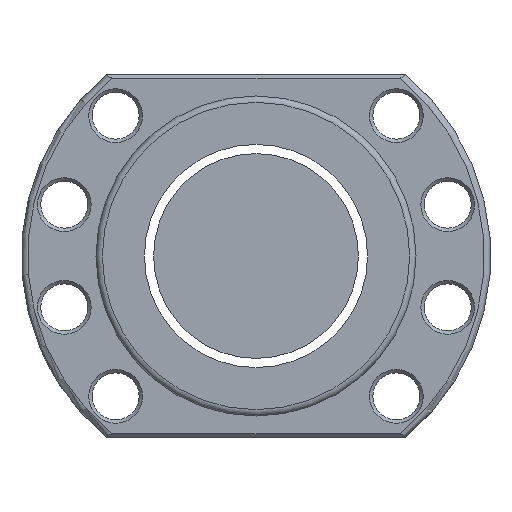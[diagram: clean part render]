
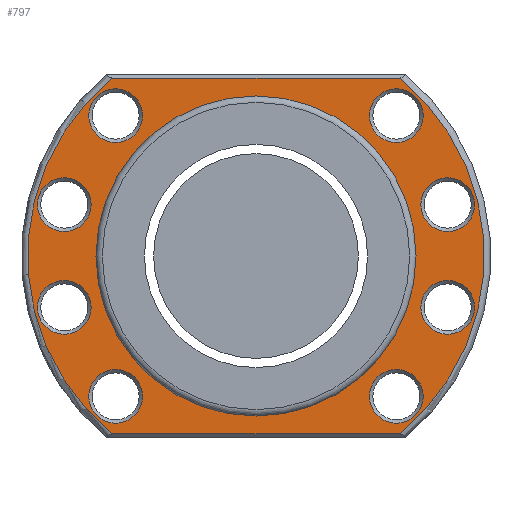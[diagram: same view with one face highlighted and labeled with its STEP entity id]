
A CAD part, left-side view. The second image highlights one B-rep face of the part: STEP entity #797.
In plain terms, the highlighted planar face has unit normal (-1, 0, 0).
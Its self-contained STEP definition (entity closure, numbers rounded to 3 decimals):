
#6 = CARTESIAN_POINT ( 'NONE',  ( -156.5, 33.517, -41.7 ) ) ;
#16 = EDGE_LOOP ( 'NONE', ( #2091 ) ) ;
#26 = EDGE_CURVE ( 'NONE', #3251, #3251, #780, .T. ) ;
#40 = EDGE_CURVE ( 'NONE', #805, #2107, #2299, .T. ) ;
#44 = DIRECTION ( 'NONE',  ( 0., 1., 0. ) ) ;
#64 = CIRCLE ( 'NONE', #1164, 6.3 ) ;
#86 = DIRECTION ( 'NONE',  ( 1., 0., 0. ) ) ;
#124 = CIRCLE ( 'NONE', #1278, 6.3 ) ;
#141 = CARTESIAN_POINT ( 'NONE',  ( -156.5, -32.88, -26.58 ) ) ;
#144 = DIRECTION ( 'NONE',  ( 0., 0., -1. ) ) ;
#243 = AXIS2_PLACEMENT_3D ( 'NONE', #1134, #1908, #3023 ) ;
#254 = DIRECTION ( 'NONE',  ( 0., 0., 1. ) ) ;
#274 = EDGE_LOOP ( 'NONE', ( #3195 ) ) ;
#294 = CIRCLE ( 'NONE', #2339, 6.3 ) ;
#336 = EDGE_CURVE ( 'NONE', #1695, #1695, #3159, .T. ) ;
#389 = EDGE_LOOP ( 'NONE', ( #2916, #1322, #1446, #3317 ) ) ;
#391 = ORIENTED_EDGE ( 'NONE', *, *, #1523, .T. ) ;
#392 = CARTESIAN_POINT ( 'NONE',  ( -156.5, 44.916, 18.335 ) ) ;
#423 = CARTESIAN_POINT ( 'NONE',  ( -156.5, 0., 0. ) ) ;
#498 = EDGE_CURVE ( 'NONE', #1454, #1454, #64, .T. ) ;
#537 = FACE_BOUND ( 'NONE', #2301, .T. ) ;
#561 = AXIS2_PLACEMENT_3D ( 'NONE', #670, #1990, #2526 ) ;
#563 = CIRCLE ( 'NONE', #2502, 6.3 ) ;
#591 = DIRECTION ( 'NONE',  ( 0., 0., 1. ) ) ;
#618 = CARTESIAN_POINT ( 'NONE',  ( -156.5, -44.916, -5.735 ) ) ;
#661 = ORIENTED_EDGE ( 'NONE', *, *, #2686, .T. ) ;
#670 = CARTESIAN_POINT ( 'NONE',  ( -156.5, 0., 0. ) ) ;
#701 = EDGE_LOOP ( 'NONE', ( #661 ) ) ;
#730 = AXIS2_PLACEMENT_3D ( 'NONE', #1749, #1147, #2027 ) ;
#780 = CIRCLE ( 'NONE', #2605, 6.3 ) ;
#782 = AXIS2_PLACEMENT_3D ( 'NONE', #2120, #2302, #3356 ) ;
#797 = ADVANCED_FACE ( 'NONE', ( #1253, #990, #2053, #3103, #537, #2100, #1056, #1877, #827, #2133 ), #1024, .T. ) ;
#805 = VERTEX_POINT ( 'NONE', #6 ) ;
#827 = FACE_BOUND ( 'NONE', #1427, .T. ) ;
#931 = VERTEX_POINT ( 'NONE', #2246 ) ;
#954 = CIRCLE ( 'NONE', #2285, 53.5 ) ;
#961 = CARTESIAN_POINT ( 'NONE',  ( -156.5, -44.916, -12.035 ) ) ;
#986 = DIRECTION ( 'NONE',  ( -1., 0., 0. ) ) ;
#990 = FACE_BOUND ( 'NONE', #1900, .T. ) ;
#1024 = PLANE ( 'NONE',  #2001 ) ;
#1056 = FACE_BOUND ( 'NONE', #16, .T. ) ;
#1074 = CARTESIAN_POINT ( 'NONE',  ( -156.5, 55., 0. ) ) ;
#1082 = EDGE_LOOP ( 'NONE', ( #2056 ) ) ;
#1108 = CARTESIAN_POINT ( 'NONE',  ( -156.5, -33.517, 41.7 ) ) ;
#1129 = CARTESIAN_POINT ( 'NONE',  ( -156.5, -44.916, 18.335 ) ) ;
#1132 = DIRECTION ( 'NONE',  ( 0., 0., 1. ) ) ;
#1134 = CARTESIAN_POINT ( 'NONE',  ( -156.5, 32.88, 32.88 ) ) ;
#1147 = DIRECTION ( 'NONE',  ( 1., 0., 0. ) ) ;
#1163 = CARTESIAN_POINT ( 'NONE',  ( -156.5, 32.88, -26.58 ) ) ;
#1164 = AXIS2_PLACEMENT_3D ( 'NONE', #2451, #86, #1132 ) ;
#1174 = CIRCLE ( 'NONE', #243, 6.3 ) ;
#1224 = CIRCLE ( 'NONE', #730, 6.3 ) ;
#1240 = CARTESIAN_POINT ( 'NONE',  ( -156.5, 33.517, 41.7 ) ) ;
#1249 = CARTESIAN_POINT ( 'NONE',  ( -156.5, 44.916, -12.035 ) ) ;
#1253 = FACE_BOUND ( 'NONE', #1082, .T. ) ;
#1278 = AXIS2_PLACEMENT_3D ( 'NONE', #1307, #3157, #2899 ) ;
#1307 = CARTESIAN_POINT ( 'NONE',  ( -156.5, -32.88, 32.88 ) ) ;
#1322 = ORIENTED_EDGE ( 'NONE', *, *, #40, .T. ) ;
#1337 = CARTESIAN_POINT ( 'NONE',  ( -156.5, 55., 41.7 ) ) ;
#1427 = EDGE_LOOP ( 'NONE', ( #1724 ) ) ;
#1446 = ORIENTED_EDGE ( 'NONE', *, *, #3126, .T. ) ;
#1447 = VERTEX_POINT ( 'NONE', #392 ) ;
#1448 = VERTEX_POINT ( 'NONE', #1240 ) ;
#1454 = VERTEX_POINT ( 'NONE', #141 ) ;
#1457 = EDGE_CURVE ( 'NONE', #1949, #1949, #1614, .T. ) ;
#1458 = CARTESIAN_POINT ( 'NONE',  ( -156.5, 0., 0. ) ) ;
#1465 = DIRECTION ( 'NONE',  ( 0., -1., 0. ) ) ;
#1477 = DIRECTION ( 'NONE',  ( 0., 0., 1. ) ) ;
#1523 = EDGE_CURVE ( 'NONE', #2241, #2241, #124, .T. ) ;
#1558 = VECTOR ( 'NONE', #1465, 1000. ) ;
#1583 = LINE ( 'NONE', #1337, #2667 ) ;
#1614 = CIRCLE ( 'NONE', #782, 6.3 ) ;
#1637 = EDGE_CURVE ( 'NONE', #2222, #2222, #1224, .T. ) ;
#1695 = VERTEX_POINT ( 'NONE', #2748 ) ;
#1709 = EDGE_CURVE ( 'NONE', #1448, #805, #2058, .T. ) ;
#1724 = ORIENTED_EDGE ( 'NONE', *, *, #336, .T. ) ;
#1749 = CARTESIAN_POINT ( 'NONE',  ( -156.5, 32.88, -32.88 ) ) ;
#1877 = FACE_BOUND ( 'NONE', #2519, .T. ) ;
#1900 = EDGE_LOOP ( 'NONE', ( #2809 ) ) ;
#1908 = DIRECTION ( 'NONE',  ( 1., 0., 0. ) ) ;
#1949 = VERTEX_POINT ( 'NONE', #1129 ) ;
#1985 = DIRECTION ( 'NONE',  ( 1., 0., 0. ) ) ;
#1990 = DIRECTION ( 'NONE',  ( -1., 0., 0. ) ) ;
#2001 = AXIS2_PLACEMENT_3D ( 'NONE', #1074, #2086, #254 ) ;
#2027 = DIRECTION ( 'NONE',  ( 0., 0., 1. ) ) ;
#2053 = FACE_BOUND ( 'NONE', #274, .T. ) ;
#2056 = ORIENTED_EDGE ( 'NONE', *, *, #498, .T. ) ;
#2058 = CIRCLE ( 'NONE', #561, 53.5 ) ;
#2086 = DIRECTION ( 'NONE',  ( -1., 0., 0. ) ) ;
#2091 = ORIENTED_EDGE ( 'NONE', *, *, #3147, .T. ) ;
#2100 = FACE_BOUND ( 'NONE', #701, .T. ) ;
#2107 = VERTEX_POINT ( 'NONE', #3091 ) ;
#2120 = CARTESIAN_POINT ( 'NONE',  ( -156.5, -44.916, 12.035 ) ) ;
#2133 = FACE_OUTER_BOUND ( 'NONE', #389, .T. ) ;
#2216 = DIRECTION ( 'NONE',  ( 1., 0., 0. ) ) ;
#2222 = VERTEX_POINT ( 'NONE', #1163 ) ;
#2241 = VERTEX_POINT ( 'NONE', #2999 ) ;
#2246 = CARTESIAN_POINT ( 'NONE',  ( -156.5, 44.916, -5.735 ) ) ;
#2278 = DIRECTION ( 'NONE',  ( 0., 0., 1. ) ) ;
#2285 = AXIS2_PLACEMENT_3D ( 'NONE', #423, #986, #1477 ) ;
#2299 = LINE ( 'NONE', #3353, #1558 ) ;
#2301 = EDGE_LOOP ( 'NONE', ( #3012 ) ) ;
#2302 = DIRECTION ( 'NONE',  ( 1., 0., 0. ) ) ;
#2339 = AXIS2_PLACEMENT_3D ( 'NONE', #1249, #2844, #3045 ) ;
#2383 = AXIS2_PLACEMENT_3D ( 'NONE', #1458, #3345, #144 ) ;
#2416 = VERTEX_POINT ( 'NONE', #1108 ) ;
#2451 = CARTESIAN_POINT ( 'NONE',  ( -156.5, -32.88, -32.88 ) ) ;
#2494 = CARTESIAN_POINT ( 'NONE',  ( -156.5, 44.916, 12.035 ) ) ;
#2502 = AXIS2_PLACEMENT_3D ( 'NONE', #2494, #2216, #591 ) ;
#2509 = EDGE_CURVE ( 'NONE', #2416, #1448, #1583, .T. ) ;
#2519 = EDGE_LOOP ( 'NONE', ( #2691 ) ) ;
#2526 = DIRECTION ( 'NONE',  ( 0., 0., 1. ) ) ;
#2605 = AXIS2_PLACEMENT_3D ( 'NONE', #961, #1985, #2278 ) ;
#2667 = VECTOR ( 'NONE', #44, 1000. ) ;
#2686 = EDGE_CURVE ( 'NONE', #1447, #1447, #563, .T. ) ;
#2691 = ORIENTED_EDGE ( 'NONE', *, *, #1637, .T. ) ;
#2748 = CARTESIAN_POINT ( 'NONE',  ( -156.5, 0., -37.5 ) ) ;
#2809 = ORIENTED_EDGE ( 'NONE', *, *, #26, .T. ) ;
#2844 = DIRECTION ( 'NONE',  ( 1., 0., 0. ) ) ;
#2849 = EDGE_LOOP ( 'NONE', ( #391 ) ) ;
#2899 = DIRECTION ( 'NONE',  ( 0., 0., 1. ) ) ;
#2916 = ORIENTED_EDGE ( 'NONE', *, *, #1709, .T. ) ;
#2999 = CARTESIAN_POINT ( 'NONE',  ( -156.5, -32.88, 39.18 ) ) ;
#3012 = ORIENTED_EDGE ( 'NONE', *, *, #3229, .T. ) ;
#3023 = DIRECTION ( 'NONE',  ( 0., 0., 1. ) ) ;
#3045 = DIRECTION ( 'NONE',  ( 0., 0., 1. ) ) ;
#3091 = CARTESIAN_POINT ( 'NONE',  ( -156.5, -33.517, -41.7 ) ) ;
#3103 = FACE_BOUND ( 'NONE', #2849, .T. ) ;
#3115 = CARTESIAN_POINT ( 'NONE',  ( -156.5, 32.88, 39.18 ) ) ;
#3126 = EDGE_CURVE ( 'NONE', #2107, #2416, #954, .T. ) ;
#3147 = EDGE_CURVE ( 'NONE', #931, #931, #294, .T. ) ;
#3157 = DIRECTION ( 'NONE',  ( 1., 0., 0. ) ) ;
#3159 = CIRCLE ( 'NONE', #2383, 37.5 ) ;
#3195 = ORIENTED_EDGE ( 'NONE', *, *, #1457, .T. ) ;
#3229 = EDGE_CURVE ( 'NONE', #3341, #3341, #1174, .T. ) ;
#3251 = VERTEX_POINT ( 'NONE', #618 ) ;
#3317 = ORIENTED_EDGE ( 'NONE', *, *, #2509, .T. ) ;
#3341 = VERTEX_POINT ( 'NONE', #3115 ) ;
#3345 = DIRECTION ( 'NONE',  ( 1., 0., 0. ) ) ;
#3353 = CARTESIAN_POINT ( 'NONE',  ( -156.5, 55., -41.7 ) ) ;
#3356 = DIRECTION ( 'NONE',  ( 0., 0., 1. ) ) ;
